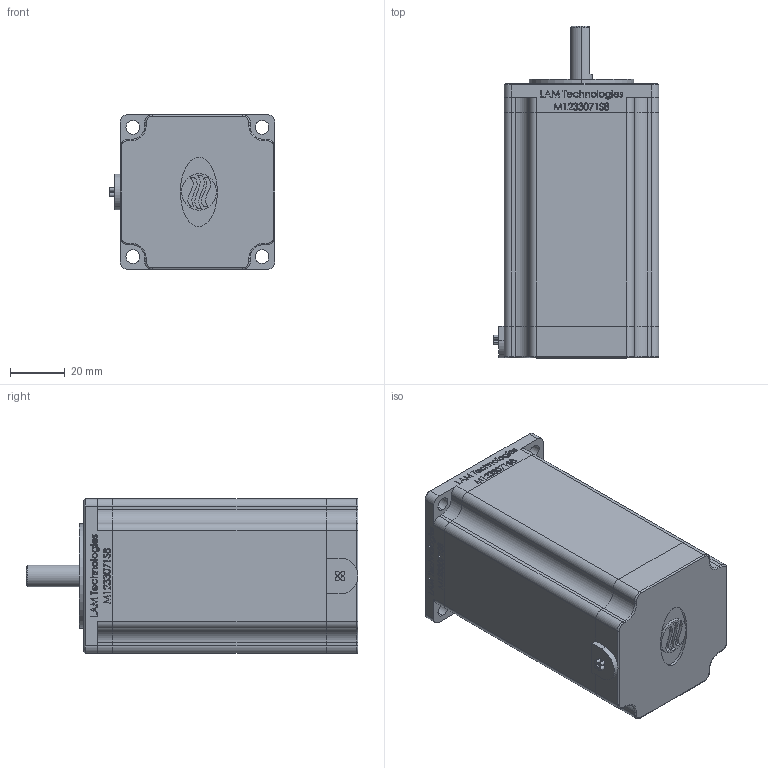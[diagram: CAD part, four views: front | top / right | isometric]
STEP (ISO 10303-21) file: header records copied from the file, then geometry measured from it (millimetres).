
FILE_DESCRIPTION (( 'STEP AP214' ), '1' );
FILE_NAME ('M1233071S8.STEP', '2013-02-05T14:17:39', ( 'Enrico' ), ( 'Microsoft' ), 'SwSTEP 2.0', 'SolidWorks 2008', '' );
FILE_SCHEMA (( 'AUTOMOTIVE_DESIGN' ));
Length unit declared in the file: millimetre
Products named in the file (1): M1233071S8
Bounding box: 60.4 x 121 x 56.4 mm (x, y, z)
Volume: 290326.2 mm3; surface area: 40548.1 mm2
Topology: 8 solids, 8 shells, 1498 faces, 3960 edges, 2626 vertices
Faces by surface type: plane 706, bspline 690, cylinder 75, cone 15, torus 12
Entity records: 96589 total; most frequent: CARTESIAN_POINT 47461, ORIENTED_EDGE 7920, DIRECTION 4375, EDGE_CURVE 3960, VERTEX_POINT 2626, VECTOR 2399, LINE 2399, EDGE_LOOP 1654
